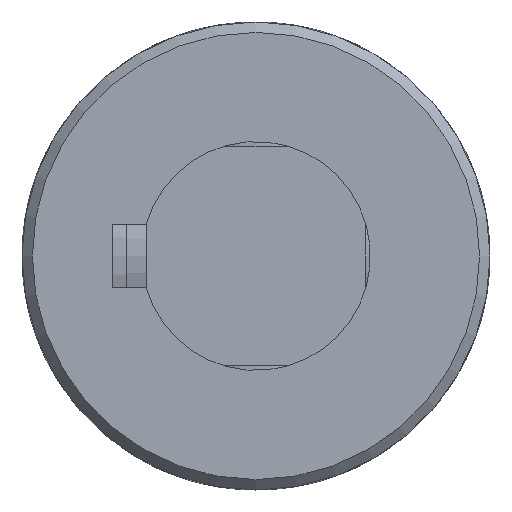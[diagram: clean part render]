
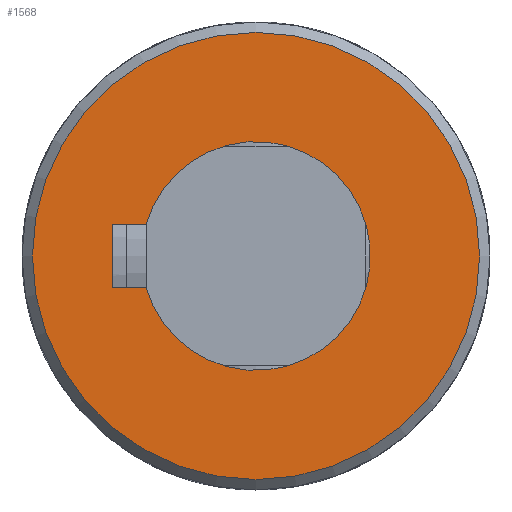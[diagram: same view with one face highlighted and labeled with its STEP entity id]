
A CAD part, front view. The second image highlights one B-rep face of the part: STEP entity #1568.
In plain terms, the highlighted planar face has unit normal (0, -1, 0).
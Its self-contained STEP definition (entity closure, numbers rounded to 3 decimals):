
#110=LINE('',#2979,#167);
#114=LINE('',#3002,#171);
#116=LINE('',#3010,#173);
#167=VECTOR('',#2045,3.217);
#171=VECTOR('',#2057,6.);
#173=VECTOR('',#2061,3.217);
#223=PLANE('',#1727);
#359=FACE_BOUND('',#573,.T.);
#439=FACE_OUTER_BOUND('',#572,.T.);
#572=EDGE_LOOP('',(#1378));
#573=EDGE_LOOP('',(#1379,#1380,#1381,#1382));
#652=CIRCLE('',#1714,11.);
#658=CIRCLE('',#1725,21.5);
#783=VERTEX_POINT('',#2976);
#784=VERTEX_POINT('',#2978);
#787=VERTEX_POINT('',#2988);
#789=VERTEX_POINT('',#3000);
#798=VERTEX_POINT('',#3089);
#977=EDGE_CURVE('',#784,#783,#110,.T.);
#981=EDGE_CURVE('',#787,#784,#652,.T.);
#985=EDGE_CURVE('',#783,#789,#114,.T.);
#988=EDGE_CURVE('',#789,#787,#116,.T.);
#998=EDGE_CURVE('',#798,#798,#658,.T.);
#1378=ORIENTED_EDGE('',*,*,#998,.F.);
#1379=ORIENTED_EDGE('',*,*,#977,.T.);
#1380=ORIENTED_EDGE('',*,*,#985,.T.);
#1381=ORIENTED_EDGE('',*,*,#988,.T.);
#1382=ORIENTED_EDGE('',*,*,#981,.T.);
#1568=ADVANCED_FACE('',(#439,#359),#223,.F.);
#1714=AXIS2_PLACEMENT_3D('',#2989,#2051,#2052);
#1725=AXIS2_PLACEMENT_3D('',#3090,#2078,#2079);
#1727=AXIS2_PLACEMENT_3D('',#3274,#2086,#2087);
#2045=DIRECTION('',(0.,0.,-1.));
#2051=DIRECTION('center_axis',(0.,1.,0.));
#2052=DIRECTION('ref_axis',(-0.273,0.,0.962));
#2057=DIRECTION('',(-1.,0.,0.));
#2061=DIRECTION('',(0.,0.,1.));
#2078=DIRECTION('center_axis',(0.,1.,0.));
#2079=DIRECTION('ref_axis',(1.,0.,0.));
#2086=DIRECTION('center_axis',(0.,1.,0.));
#2087=DIRECTION('ref_axis',(0.,0.,1.));
#2976=CARTESIAN_POINT('',(3.,-58.,-13.8));
#2978=CARTESIAN_POINT('',(3.,-58.,-10.583));
#2979=CARTESIAN_POINT('',(3.,-58.,-5.292));
#2988=CARTESIAN_POINT('',(-3.,-58.,-10.583));
#2989=CARTESIAN_POINT('Origin',(0.,-58.,0.));
#3000=CARTESIAN_POINT('',(-3.,-58.,-13.8));
#3002=CARTESIAN_POINT('',(1.5,-58.,-13.8));
#3010=CARTESIAN_POINT('',(-3.,-58.,-6.9));
#3089=CARTESIAN_POINT('',(-21.5,-58.,0.));
#3090=CARTESIAN_POINT('Origin',(0.,-58.,0.));
#3274=CARTESIAN_POINT('Origin',(0.,-58.,0.));
